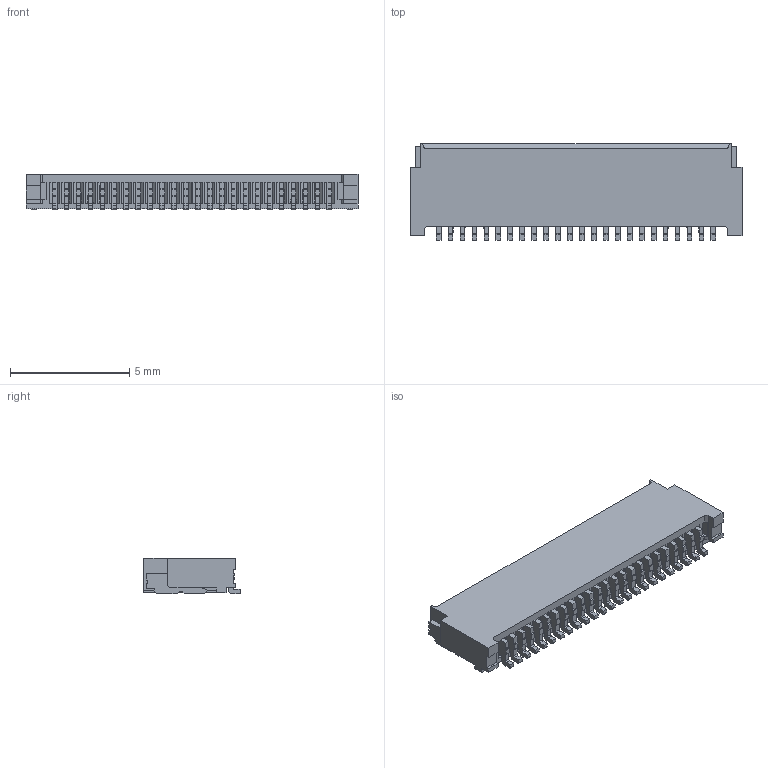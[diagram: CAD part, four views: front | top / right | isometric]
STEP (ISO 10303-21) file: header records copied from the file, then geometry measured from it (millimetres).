
FILE_DESCRIPTION (( 'STEP AP214' ), '1' );
FILE_NAME ('00_6284_024_00X_846_+.STEP', '2019-11-13T04:42:12', ( '' ), ( '' ), 'SwSTEP 2.0', 'SolidWorks 2017', '' );
FILE_SCHEMA (( 'AUTOMOTIVE_DESIGN' ));
Length unit declared in the file: millimetre
Products named in the file (1): 00_6284_024_00X_846_+
Bounding box: 13.9 x 4.05 x 1.5 mm (x, y, z)
Volume: 56.2 mm3; surface area: 242.8 mm2
Topology: 1 solids, 1 shells, 702 faces, 1932 edges, 1256 vertices
Faces by surface type: plane 572, cylinder 130
Entity records: 22094 total; most frequent: CARTESIAN_POINT 4203, ORIENTED_EDGE 3864, DIRECTION 3490, EDGE_CURVE 1932, VECTOR 1572, LINE 1572, VERTEX_POINT 1256, AXIS2_PLACEMENT_3D 959
